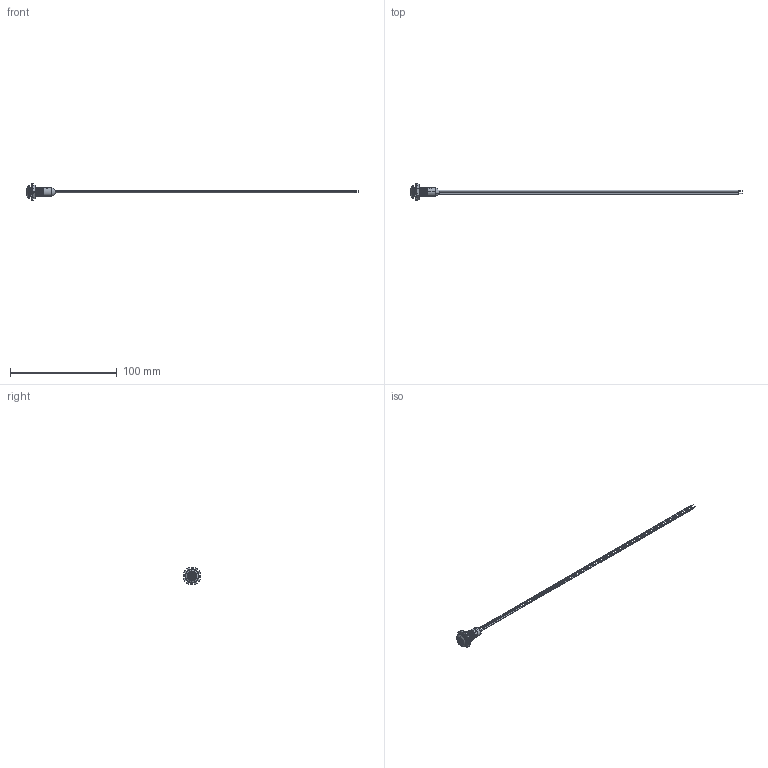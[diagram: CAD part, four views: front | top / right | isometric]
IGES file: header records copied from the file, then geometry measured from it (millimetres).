
Start section: SolidWorks IGES file using analytic representation for surfaces
Global section: file name: N:\Drawings\VCC\Assemblies\STD CABLE ASSY\CNX 482 X XXX XX.IGS; native system: SolidWorks 2016; preprocessor: SolidWorks 2016; author: tstoltenburg; date: 170331.080117; units: inch
Bounding box: 311.52 x 16.81 x 16.81 mm (x, y, z)
Surface area: 7800.1 mm2 (no closed solid volume)
Topology: 0 solids, 0 shells, 606 faces, 6962 edges, 6955 vertices
Faces by surface type: revolution 327, bspline 279
